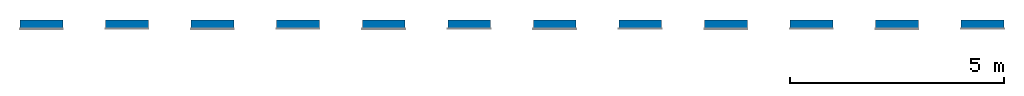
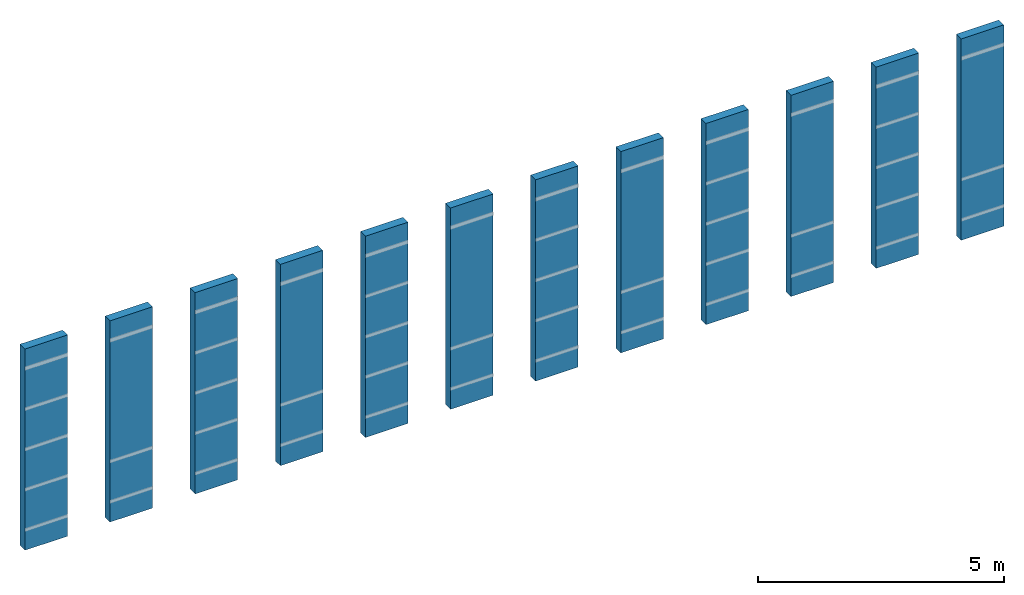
# One storey, part 1 of 3: 12 walls.
"""IFC2X3 building model written with IfcOpenShell, lengths in millimetres."""

from ifc_helpers import new_model, entity, si_unit, converted_unit, derived_unit, direction, frame, frame_2d, origin, place, context, subcontext, project, spatial, rectangle, extrude, type_object, element, save


model = new_model("IFC2X3")

# Units and contexts
model_context = context("Model", 3, precision=0.01, world=origin(), true_north=direction((6.12303176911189e-17, 1.0)))
body_context = subcontext(model_context, "Body", "Model", "MODEL_VIEW")
ifc_project = project(units=[si_unit("LENGTHUNIT", "METRE", prefix="MILLI"), si_unit("AREAUNIT", "SQUARE_METRE"), si_unit("VOLUMEUNIT", "CUBIC_METRE"), converted_unit("PLANEANGLEUNIT", "DEGREE", entity("IfcRatioMeasure", 0.0174532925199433), si_unit("PLANEANGLEUNIT", "RADIAN"), dimensions=[0, 0, 0, 0, 0, 0, 0]), si_unit("MASSUNIT", "GRAM", prefix="KILO"), derived_unit("MASSDENSITYUNIT", [(si_unit("MASSUNIT", "GRAM", prefix="KILO"), 1), (si_unit("LENGTHUNIT", "METRE"), -3)]), derived_unit("MOMENTOFINERTIAUNIT", [(si_unit("LENGTHUNIT", "METRE"), 4)]), si_unit("TIMEUNIT", "SECOND"), si_unit("FREQUENCYUNIT", "HERTZ"), si_unit("THERMODYNAMICTEMPERATUREUNIT", "DEGREE_CELSIUS"), derived_unit("THERMALTRANSMITTANCEUNIT", [(si_unit("MASSUNIT", "GRAM", prefix="KILO"), 1), (si_unit("THERMODYNAMICTEMPERATUREUNIT", "KELVIN"), -1), (si_unit("TIMEUNIT", "SECOND"), -3)]), derived_unit("VOLUMETRICFLOWRATEUNIT", [(si_unit("LENGTHUNIT", "METRE"), 3), (si_unit("TIMEUNIT", "SECOND"), -1)]), si_unit("ELECTRICCURRENTUNIT", "AMPERE"), si_unit("ELECTRICVOLTAGEUNIT", "VOLT"), si_unit("POWERUNIT", "WATT"), si_unit("FORCEUNIT", "NEWTON", prefix="KILO"), si_unit("ILLUMINANCEUNIT", "LUX"), si_unit("LUMINOUSFLUXUNIT", "LUMEN"), si_unit("LUMINOUSINTENSITYUNIT", "CANDELA"), derived_unit("USERDEFINED", [(si_unit("MASSUNIT", "GRAM", prefix="KILO"), -1), (si_unit("LENGTHUNIT", "METRE"), -2), (si_unit("TIMEUNIT", "SECOND"), 3), (si_unit("LUMINOUSFLUXUNIT", "LUMEN"), 1)]), derived_unit("LINEARVELOCITYUNIT", [(si_unit("LENGTHUNIT", "METRE"), 1), (si_unit("TIMEUNIT", "SECOND"), -1)]), si_unit("PRESSUREUNIT", "PASCAL"), derived_unit("USERDEFINED", [(si_unit("LENGTHUNIT", "METRE"), -2), (si_unit("MASSUNIT", "GRAM", prefix="KILO"), 1), (si_unit("TIMEUNIT", "SECOND"), -2)]), derived_unit("LINEARFORCEUNIT", [(si_unit("MASSUNIT", "GRAM", prefix="KILO"), 1), (si_unit("LENGTHUNIT", "METRE"), 1), (si_unit("TIMEUNIT", "SECOND"), -2), (si_unit("LENGTHUNIT", "METRE"), -1)]), derived_unit("PLANARFORCEUNIT", [(si_unit("MASSUNIT", "GRAM", prefix="KILO"), 1), (si_unit("LENGTHUNIT", "METRE"), 1), (si_unit("TIMEUNIT", "SECOND"), -2), (si_unit("LENGTHUNIT", "METRE"), -2)])], contexts=[model_context])

# Site, building, storey
site_placement = place(None, origin())
site = spatial("IfcSite", under=ifc_project, at=site_placement, Name="Default", CompositionType="ELEMENT")
building_placement = place(site_placement, origin())
building = spatial("IfcBuilding", under=site, at=building_placement, CompositionType="ELEMENT")
storey_placement = place(building_placement, origin())
storey = spatial("IfcBuildingStorey", under=building, at=storey_placement, Name="Level 1", CompositionType="ELEMENT", Elevation=0.0)

# Walls
wall_type = type_object("IfcWallType", Name="Basic Wall:Wall 1", PredefinedType="STANDARD")
wall_placement = place(storey_placement, frame((5592.00231570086, -6873.11532249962, -26148.3806729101)))
element("IfcWallStandardCase", 1, at=wall_placement, inside=storey, type_object=wall_type, Name="Basic Wall:Wall 1", ObjectType="Basic Wall:Wall 1", context=body_context, shape_type="SweptSolid", body=[
    extrude(rectangle(XDim=1000.0, YDim=200.0, at=frame_2d((500.000000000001, 3.5527136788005e-14), x_axis=(-1.0, 0.0))), origin(), (0.0, 0.0, 1.0), 5000.0),
])
for number, where, name in (
    (2, (7592.00231570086, -6873.11532249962, -26148.3806729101), "Basic Wall:Wall 1"),
    (3, (9592.00231570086, -6873.11532249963, -26148.3806729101), "Basic Wall:Wall 1"),
):
    element("IfcWallStandardCase", number, at=place(storey_placement, frame(where)), inside=storey, type_object=wall_type, Name=name, ObjectType="Basic Wall:Wall 1", context=body_context, shape_type="SweptSolid", body=[
        extrude(rectangle(XDim=1000.0, YDim=200.0, at=frame_2d((500.000000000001, 3.5527136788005e-14), x_axis=(-1.0, 0.0))), origin(), (0.0, 0.0, 1.0), 4999.99999999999),
    ])
for number, where, name in (
    (4, (11592.0023157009, -6873.11532249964, -26148.3806729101), "Basic Wall:Wall 1"),
    (5, (13592.0023157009, -6873.11532249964, -26148.3806729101), "Basic Wall:Wall 1"),
    (6, (15592.0023157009, -6873.11532249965, -26148.3806729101), "Basic Wall:Wall 1"),
    (7, (17592.0023157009, -6873.11532249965, -26148.3806729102), "Basic Wall:Wall 1"),
):
    element("IfcWallStandardCase", number, at=place(storey_placement, frame(where)), inside=storey, type_object=wall_type, Name=name, ObjectType="Basic Wall:Wall 1", context=body_context, shape_type="SweptSolid", body=[
        extrude(rectangle(XDim=1000.0, YDim=200.0, at=frame_2d((500.0, 3.5527136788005e-14), x_axis=(-1.0, 0.0))), origin(), (0.0, 0.0, 1.0), 4999.99999999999),
    ])
for number, where, name in (
    (8, (19592.0023157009, -6873.11532249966, -26148.3806729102), "Basic Wall:Wall 1"),
    (9, (21592.0023157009, -6873.11532249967, -26148.3806729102), "Basic Wall:Wall 1"),
    (10, (23592.0023157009, -6873.11532249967, -26148.3806729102), "Basic Wall:Wall 1"),
    (11, (25592.0023157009, -6873.11532249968, -26148.3806729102), "Basic Wall:Wall 1"),
    (12, (27592.0023157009, -6873.11532249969, -26148.3806729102), "Basic Wall:Wall 1"),
):
    element("IfcWallStandardCase", number, at=place(storey_placement, frame(where)), inside=storey, type_object=wall_type, Name=name, ObjectType="Basic Wall:Wall 1", context=body_context, shape_type="SweptSolid", body=[
        extrude(rectangle(XDim=1000.0, YDim=200.0, at=frame_2d((500.000000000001, 3.5527136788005e-14), x_axis=(-1.0, 0.0))), origin(), (0.0, 0.0, 1.0), 4999.99999999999),
    ])

save(model, "model.ifc")
